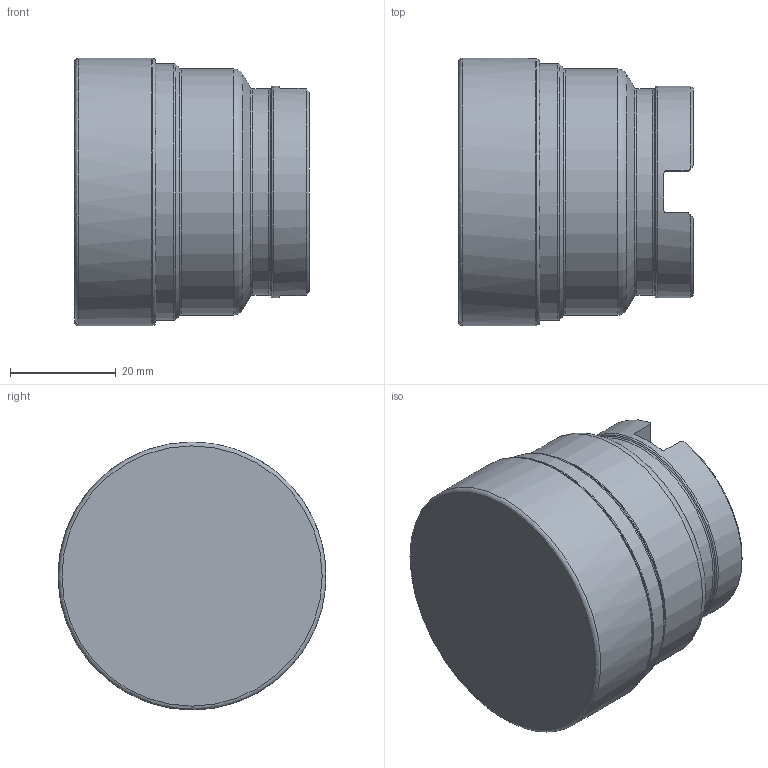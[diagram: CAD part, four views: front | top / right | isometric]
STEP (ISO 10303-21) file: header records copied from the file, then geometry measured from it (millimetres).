
FILE_DESCRIPTION(/* description */ (''),/* implementation_level */ '2;1');
FILE_NAME(/* name */ 'emp13-2.00''''-a0.75''''-an15-04c.stp',/* time_stamp */ '2021-06-17T13:38:22+08:00',/* author */ (''),/* organization */ (''),/* preprocessor_version */ 'ST-DEVELOPER v16.7',/* originating_system */ 'SIEMENS PLM Software NX 12.0',/* authorisation */ '');
FILE_SCHEMA (('AUTOMOTIVE_DESIGN { 1 0 10303 214 3 1 1 1 }'));
Length unit declared in the file: millimetre
Products named in the file (1): liuj1E246CBAtzcw
Bounding box: 44.45 x 50.68 x 50.7 mm (x, y, z)
Volume: 89356.8 mm3; surface area: 18004.5 mm2
Topology: 3 solids, 3 shells, 72 faces, 174 edges, 111 vertices
Faces by surface type: plane 22, torus 13, revolution 13, cylinder 12, cone 12
Full cylindrical faces by diameter (mm): 10.5 x1, 16 x1, 19.05 x1, 21.05 x1, 39 x1, 40 x1, 46.6 x1, 48.6 x1
Entity records: 1985 total; most frequent: CARTESIAN_POINT 565, DIRECTION 288, ORIENTED_EDGE 226, AXIS2_PLACEMENT_3D 124, EDGE_LOOP 116, EDGE_CURVE 113, FACE_BOUND 90, VERTEX_POINT 89
